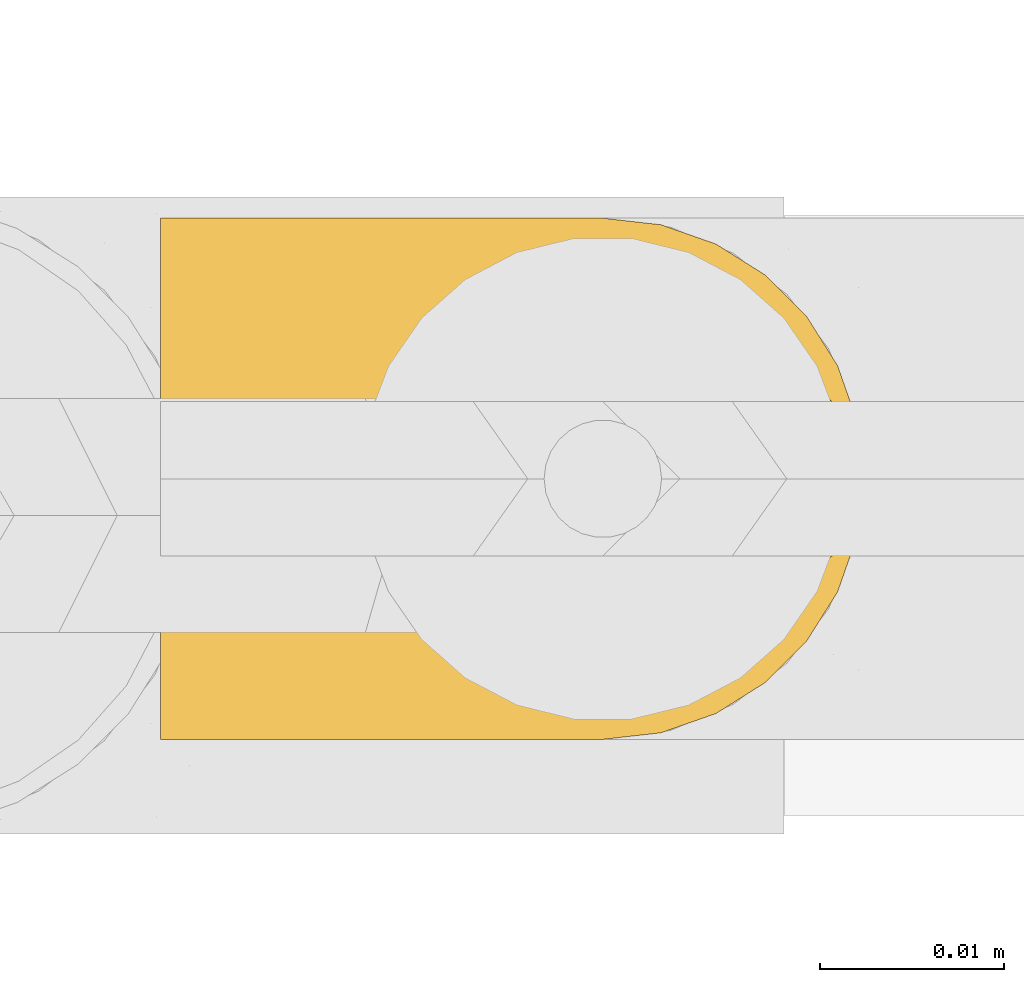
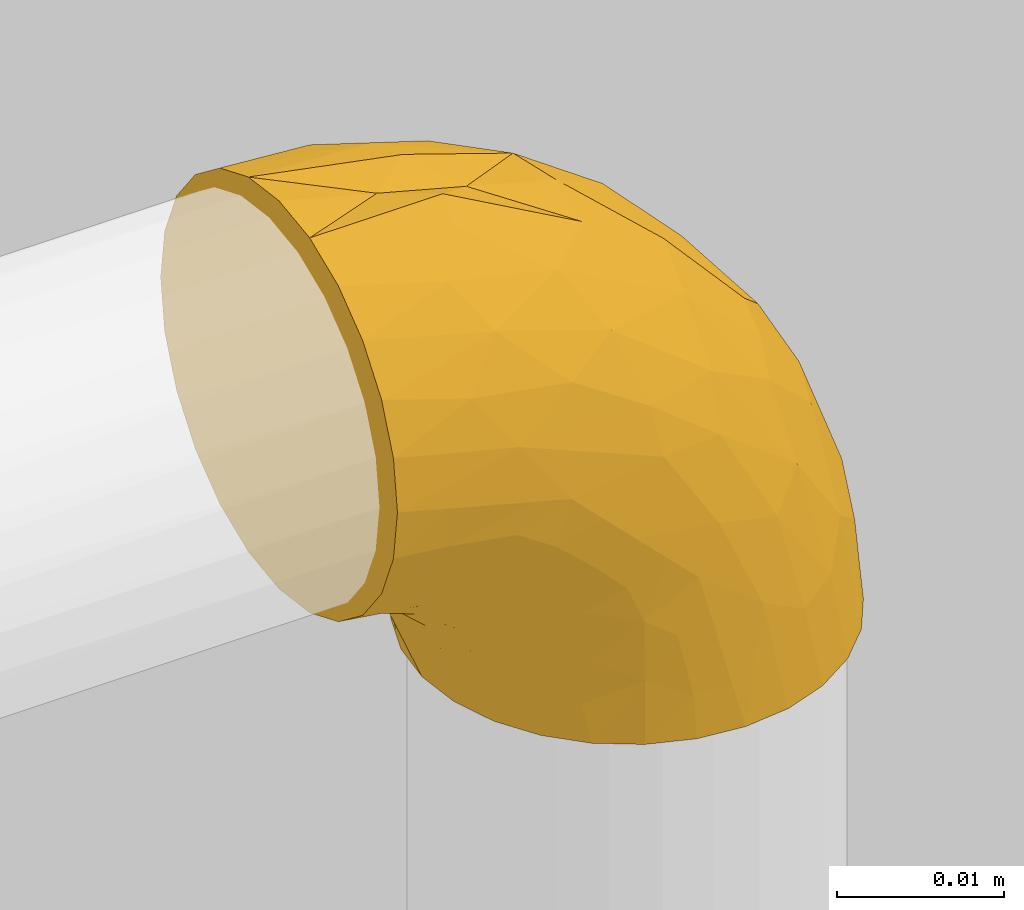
# One storey, part 12 of 32: 1 covering.
"""IFC2X3 building model written with IfcOpenShell, lengths in metres."""

from ifc_helpers import new_model, entity, si_unit, converted_unit, derived_unit, direction, frame, origin, place, context, subcontext, project, spatial, faceted_brep, material, type_object, element, save


model = new_model("IFC2X3")

# Units and contexts
model_context = context("Model", 3, precision=1e-05, world=origin(), true_north=direction((6.123031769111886e-17, 1.0)))
body_context = subcontext(model_context, "Body", "Model", "MODEL_VIEW")
ifc_project = project(units=[si_unit("LENGTHUNIT", "METRE"), si_unit("AREAUNIT", "SQUARE_METRE"), si_unit("VOLUMEUNIT", "CUBIC_METRE"), converted_unit("PLANEANGLEUNIT", "DEGREE", entity("IfcPlaneAngleMeasure", 0.017453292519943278), si_unit("PLANEANGLEUNIT", "RADIAN"), dimensions=[0, 0, 0, 0, 0, 0, 0]), si_unit("MASSUNIT", "GRAM", prefix="KILO"), derived_unit("MASSDENSITYUNIT", [(si_unit("MASSUNIT", "GRAM", prefix="KILO"), 1), (si_unit("LENGTHUNIT", "METRE"), -3)]), derived_unit("IONCONCENTRATIONUNIT", [(si_unit("MASSUNIT", "GRAM", prefix="KILO"), 1), (si_unit("LENGTHUNIT", "METRE"), -3)]), derived_unit("MOMENTOFINERTIAUNIT", [(si_unit("LENGTHUNIT", "METRE"), 4)]), si_unit("TIMEUNIT", "SECOND"), si_unit("FREQUENCYUNIT", "HERTZ"), si_unit("THERMODYNAMICTEMPERATUREUNIT", "DEGREE_CELSIUS"), derived_unit("THERMALTRANSMITTANCEUNIT", [(si_unit("MASSUNIT", "GRAM", prefix="KILO"), 1), (si_unit("THERMODYNAMICTEMPERATUREUNIT", "KELVIN"), -1), (si_unit("TIMEUNIT", "SECOND"), -3)]), derived_unit("THERMALCONDUCTANCEUNIT", [(si_unit("MASSUNIT", "GRAM", prefix="KILO"), 1), (si_unit("THERMODYNAMICTEMPERATUREUNIT", "KELVIN"), -1), (si_unit("TIMEUNIT", "SECOND"), -3), (si_unit("LENGTHUNIT", "METRE"), 1)]), derived_unit("VOLUMETRICFLOWRATEUNIT", [(si_unit("LENGTHUNIT", "METRE", prefix="DECI"), 3), (si_unit("TIMEUNIT", "SECOND"), -1)]), derived_unit("MASSFLOWRATEUNIT", [(si_unit("MASSUNIT", "GRAM", prefix="KILO"), 1), (si_unit("TIMEUNIT", "SECOND"), -1)]), derived_unit("ROTATIONALFREQUENCYUNIT", [(si_unit("TIMEUNIT", "SECOND"), -1)]), si_unit("ELECTRICCURRENTUNIT", "AMPERE"), si_unit("ELECTRICVOLTAGEUNIT", "VOLT"), si_unit("POWERUNIT", "WATT"), si_unit("FORCEUNIT", "NEWTON", prefix="KILO"), si_unit("ILLUMINANCEUNIT", "LUX"), si_unit("LUMINOUSFLUXUNIT", "LUMEN"), si_unit("LUMINOUSINTENSITYUNIT", "CANDELA"), si_unit("ENERGYUNIT", "JOULE"), derived_unit("USERDEFINED", [(si_unit("MASSUNIT", "GRAM", prefix="KILO"), -1), (si_unit("LENGTHUNIT", "METRE"), -2), (si_unit("TIMEUNIT", "SECOND"), 3), (si_unit("LUMINOUSFLUXUNIT", "LUMEN"), 1)]), derived_unit("USERDEFINED", [(si_unit("MASSUNIT", "GRAM", prefix="KILO"), 1), (si_unit("TIMEUNIT", "SECOND"), -3), (si_unit("LENGTHUNIT", "METRE"), 3), (si_unit("ELECTRICCURRENTUNIT", "AMPERE"), -2)]), derived_unit("SOUNDPOWERUNIT", [(si_unit("MASSUNIT", "GRAM", prefix="KILO"), 1), (si_unit("TIMEUNIT", "SECOND"), -3), (si_unit("LENGTHUNIT", "METRE"), 2)]), derived_unit("SOUNDPRESSUREUNIT", [(si_unit("MASSUNIT", "GRAM", prefix="KILO"), 1), (si_unit("LENGTHUNIT", "METRE"), -1), (si_unit("TIMEUNIT", "SECOND"), -2)]), derived_unit("LINEARVELOCITYUNIT", [(si_unit("LENGTHUNIT", "METRE"), 1), (si_unit("TIMEUNIT", "SECOND"), -1)]), si_unit("PRESSUREUNIT", "PASCAL"), derived_unit("USERDEFINED", [(si_unit("MASSUNIT", "GRAM", prefix="KILO"), 1), (si_unit("LENGTHUNIT", "METRE"), -2), (si_unit("TIMEUNIT", "SECOND"), -2)]), derived_unit("LINEARFORCEUNIT", [(si_unit("MASSUNIT", "GRAM", prefix="KILO"), 1), (si_unit("TIMEUNIT", "SECOND"), -2)]), derived_unit("PLANARFORCEUNIT", [(si_unit("MASSUNIT", "GRAM", prefix="KILO"), 1), (si_unit("LENGTHUNIT", "METRE"), -1), (si_unit("TIMEUNIT", "SECOND"), -2)]), derived_unit("SPECIFICHEATCAPACITYUNIT", [(si_unit("THERMODYNAMICTEMPERATUREUNIT", "KELVIN"), -1), (si_unit("LENGTHUNIT", "METRE"), 2), (si_unit("TIMEUNIT", "SECOND"), -2)]), derived_unit("HEATFLUXDENSITYUNIT", [(si_unit("MASSUNIT", "GRAM", prefix="KILO"), 1), (si_unit("TIMEUNIT", "SECOND"), -3)]), derived_unit("HEATINGVALUEUNIT", [(si_unit("LENGTHUNIT", "METRE"), 2), (si_unit("TIMEUNIT", "SECOND"), -2)]), derived_unit("VAPORPERMEABILITYUNIT", [(si_unit("LENGTHUNIT", "METRE"), -1), (si_unit("TIMEUNIT", "SECOND"), 1)]), derived_unit("DYNAMICVISCOSITYUNIT", [(si_unit("MASSUNIT", "GRAM", prefix="KILO"), 1), (si_unit("TIMEUNIT", "SECOND"), -1), (si_unit("LENGTHUNIT", "METRE"), -1)]), derived_unit("THERMALEXPANSIONCOEFFICIENTUNIT", [(si_unit("THERMODYNAMICTEMPERATUREUNIT", "KELVIN"), -1)]), derived_unit("MODULUSOFELASTICITYUNIT", [(si_unit("MASSUNIT", "GRAM", prefix="KILO"), 1), (si_unit("LENGTHUNIT", "METRE"), -1), (si_unit("TIMEUNIT", "SECOND"), -2)]), derived_unit("ISOTHERMALMOISTURECAPACITYUNIT", [(si_unit("MASSUNIT", "GRAM", prefix="KILO"), -1), (si_unit("LENGTHUNIT", "METRE"), 3)]), derived_unit("MOISTUREDIFFUSIVITYUNIT", [(si_unit("TIMEUNIT", "SECOND"), -1), (si_unit("LENGTHUNIT", "METRE"), 2)]), derived_unit("MASSPERLENGTHUNIT", [(si_unit("MASSUNIT", "GRAM", prefix="KILO"), 1), (si_unit("LENGTHUNIT", "METRE"), -1)]), derived_unit("THERMALRESISTANCEUNIT", [(si_unit("MASSUNIT", "GRAM", prefix="KILO"), -1), (si_unit("TIMEUNIT", "SECOND"), 3), (si_unit("THERMODYNAMICTEMPERATUREUNIT", "KELVIN"), 1)]), derived_unit("ACCELERATIONUNIT", [(si_unit("LENGTHUNIT", "METRE"), 1), (si_unit("TIMEUNIT", "SECOND"), -2)]), derived_unit("ANGULARVELOCITYUNIT", [(si_unit("TIMEUNIT", "SECOND"), -1), (si_unit("PLANEANGLEUNIT", "RADIAN"), 1)]), derived_unit("LINEARSTIFFNESSUNIT", [(si_unit("MASSUNIT", "GRAM", prefix="KILO"), 1), (si_unit("TIMEUNIT", "SECOND"), -2)]), derived_unit("WARPINGCONSTANTUNIT", [(si_unit("LENGTHUNIT", "METRE"), 6)]), derived_unit("LINEARMOMENTUNIT", [(si_unit("MASSUNIT", "GRAM", prefix="KILO"), 1), (si_unit("LENGTHUNIT", "METRE"), 1), (si_unit("TIMEUNIT", "SECOND"), -2)]), derived_unit("TORQUEUNIT", [(si_unit("MASSUNIT", "GRAM", prefix="KILO"), 1), (si_unit("LENGTHUNIT", "METRE"), 2), (si_unit("TIMEUNIT", "SECOND"), -2)])], contexts=[model_context])

# Site, building, storey
site_placement = place(None, origin())
site = spatial("IfcSite", under=ifc_project, at=site_placement, Name="Default", CompositionType="ELEMENT")
building_placement = place(site_placement, origin())
building = spatial("IfcBuilding", under=site, at=building_placement, CompositionType="ELEMENT")
storey_placement = place(building_placement, origin())
storey = spatial("IfcBuildingStorey", under=building, at=storey_placement, Name="Niveau 0", CompositionType="ELEMENT", Elevation=-1.949160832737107e-14)

# Covering
ifc_material = material(Name="Matériau du rendu 255-255-255")
covering_type = type_object("IfcCoveringType", Name="Isolation des canalisations:Par défaut", PredefinedType="INSULATION")
covering_placement = place(storey_placement, frame((-14.996616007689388, 1.3612578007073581, 0.10913885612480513)))
element("IfcCovering", 1, at=covering_placement, inside=storey, type_object=covering_type, material=ifc_material, Name="Isolation des canalisations:Par défaut", ObjectType="Isolation des canalisations:Par défaut", PredefinedType="INSULATION", context=body_context, shape_type="Brep", body=[
    faceted_brep([(0.02885664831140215, 0.029638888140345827, -0.03989527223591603), (0.031858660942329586, 0.028587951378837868, -0.03989527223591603), (0.034550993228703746, 0.02689555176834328, -0.03989527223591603), (0.036798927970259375, 0.02464675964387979, -0.03989527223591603), (0.03849001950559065, 0.02195436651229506, -0.03989527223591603), (0.039539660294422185, 0.018953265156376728, -0.03989527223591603), (0.039895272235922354, 0.01579527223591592, -0.03989527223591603), (0.03953888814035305, 0.012633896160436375, -0.03989527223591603), (0.038487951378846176, 0.009631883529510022, -0.03989527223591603), (0.036795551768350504, 0.0069395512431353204, -0.03989527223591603), (0.0345467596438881, 0.004691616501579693, -0.03989527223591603), (0.031854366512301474, 0.0030005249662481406, -0.03989527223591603), (0.028853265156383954, 0.0019508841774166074, -0.03989527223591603), (0.025695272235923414, 0.0015952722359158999, -0.03989527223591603), (0.022533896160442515, 0.0019516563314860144, -0.03989527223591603), (0.019531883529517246, 0.0030025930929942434, -0.03989527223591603), (0.016839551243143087, 0.00469499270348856, -0.03989527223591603), (0.014591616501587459, 0.006943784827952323, -0.03989527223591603), (0.012900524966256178, 0.009636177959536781, -0.03989527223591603), (0.011850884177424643, 0.012637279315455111, -0.03989527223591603), (0.011495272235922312, 0.01579527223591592, -0.03989527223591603), (0.01185165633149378, 0.01895664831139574, -0.03989527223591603), (0.012902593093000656, 0.02195866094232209, -0.03989527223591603), (0.014594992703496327, 0.02465099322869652, -0.03989527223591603), (0.016843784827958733, 0.02689892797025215, -0.03989527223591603), (0.019536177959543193, 0.0285900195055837, -0.03989527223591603), (0.02253727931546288, 0.029639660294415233, -0.03989527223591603), (0.025695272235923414, 0.02999527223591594, -0.03989527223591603), (0.0015952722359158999, 0.012120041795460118, -0.0295114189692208), (0.0015952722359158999, 0.00869527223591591, -0.02809283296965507), (0.0015952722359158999, 0.005754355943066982, -0.025836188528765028), (0.0015952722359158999, 0.0034977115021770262, -0.022895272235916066), (0.0015952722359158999, 0.002079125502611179, -0.01947050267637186), (0.0015952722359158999, 0.0015952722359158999, -0.015795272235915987), (0.0015952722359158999, 0.002079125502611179, -0.012120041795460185), (0.0015952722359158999, 0.0034977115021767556, -0.008695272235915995), (0.0015952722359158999, 0.005754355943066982, -0.005754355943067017), (0.0015952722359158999, 0.00869527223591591, -0.0034977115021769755), (0.0015952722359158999, 0.012120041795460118, -0.002079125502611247), (0.0015952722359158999, 0.01579527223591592, -0.0015952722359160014), (0.0015952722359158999, 0.019470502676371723, -0.002079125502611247), (0.0015952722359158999, 0.02289527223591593, -0.0034977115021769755), (0.0015952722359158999, 0.025836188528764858, -0.005754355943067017), (0.0015952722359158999, 0.028092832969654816, -0.008695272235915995), (0.0015952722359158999, 0.029511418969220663, -0.012120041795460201), (0.0015952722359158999, 0.02999527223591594, -0.015795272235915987), (0.0015952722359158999, 0.029511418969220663, -0.019470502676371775), (0.0015952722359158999, 0.028092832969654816, -0.022895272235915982), (0.0015952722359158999, 0.025836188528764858, -0.02583618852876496), (0.0015952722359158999, 0.02289527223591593, -0.028092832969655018), (0.0015952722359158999, 0.019470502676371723, -0.029511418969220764), (0.0015952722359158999, 0.01579527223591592, -0.02999527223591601), (0.027048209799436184, 0.029733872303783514, -0.031466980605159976), (0.01155834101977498, 0.018166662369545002, -0.00312038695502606), (0.008375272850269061, 0.01579527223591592, -0.0034119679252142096), (0.014560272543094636, 0.01579527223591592, -0.005069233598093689), (0.014682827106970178, 0.028252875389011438, -0.011886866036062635), (0.010357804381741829, 0.02654090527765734, -0.007682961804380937), (0.018634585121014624, 0.026180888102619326, -0.010723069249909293), (0.02405349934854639, 0.02966220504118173, -0.024625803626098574), (0.022466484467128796, 0.02999527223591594, -0.027845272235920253), (0.03807237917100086, 0.02008831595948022, -0.030629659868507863), (0.03458658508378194, 0.022434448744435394, -0.023927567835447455), (0.03564178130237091, 0.01950717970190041, -0.023459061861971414), (0.020408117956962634, 0.02934471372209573, -0.01868835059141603), (0.01805587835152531, 0.02999527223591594, -0.023434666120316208), (0.016364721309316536, 0.023549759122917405, -0.007069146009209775), (0.010797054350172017, 0.02080360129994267, -0.0036578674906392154), (0.020172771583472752, 0.019923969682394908, -0.007105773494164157), (0.0074916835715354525, 0.028644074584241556, -0.01033204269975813), (0.010237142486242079, 0.029677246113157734, -0.014222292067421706), (0.025582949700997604, 0.022802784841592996, -0.012450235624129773), (0.013645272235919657, 0.02999527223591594, -0.019024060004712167), (0.010976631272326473, 0.02999527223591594, -0.01830899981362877), (0.008307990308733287, 0.02999527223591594, -0.017593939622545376), (0.007620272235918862, 0.02999527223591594, -0.017409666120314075), (0.004951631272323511, 0.02999527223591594, -0.01669460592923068), (0.025175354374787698, 0.028908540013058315, -0.022088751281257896), (0.02155615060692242, 0.02801894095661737, -0.01575171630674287), (0.026742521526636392, 0.027726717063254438, -0.02043204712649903), (0.03307723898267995, 0.02742768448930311, -0.0329260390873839), (0.034991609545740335, 0.02526771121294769, -0.030551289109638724), (0.037297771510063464, 0.02297391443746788, -0.03305521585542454), (0.03642131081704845, 0.01579527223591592, -0.026930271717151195), (0.030395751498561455, 0.028931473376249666, -0.03354339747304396), (0.02873854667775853, 0.02856587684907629, -0.02640905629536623), (0.008485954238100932, 0.02404225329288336, -0.004907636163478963), (0.024795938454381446, 0.02999527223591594, -0.03653891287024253), (0.024080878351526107, 0.02999527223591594, -0.03387027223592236), (0.023896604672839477, 0.02999527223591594, -0.033182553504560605), (0.02318154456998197, 0.02999527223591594, -0.030513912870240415), (0.031219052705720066, 0.02659257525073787, -0.024636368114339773), (0.030558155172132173, 0.024430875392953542, -0.019588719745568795), (0.03807857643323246, 0.01579527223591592, -0.03311527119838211), (0.025554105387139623, 0.026199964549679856, -0.016105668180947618), (0.027754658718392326, 0.01579527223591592, -0.013735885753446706), (0.03476404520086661, 0.01579527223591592, -0.02074527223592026), (0.03164333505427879, 0.019534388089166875, -0.01696345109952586), (0.02074527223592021, 0.01579527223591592, -0.00672649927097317), (0.02639706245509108, 0.01990856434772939, -0.011513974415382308), (0.03130855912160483, 0.02209913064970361, -0.01814369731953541), (0.015850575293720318, 0.02999527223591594, -0.02122936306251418), (0.02026118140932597, 0.02999527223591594, -0.02563996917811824), (0.019055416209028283, 0.029377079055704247, -0.030232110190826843), (0.01941299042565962, 0.0288294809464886, -0.03504783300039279), (0.016324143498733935, 0.02753992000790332, -0.033347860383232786), (0.01008373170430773, 0.029670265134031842, -0.0206006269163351), (0.005334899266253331, 0.029488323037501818, -0.01990237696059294), (0.006124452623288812, 0.025730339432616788, -0.026696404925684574), (0.008851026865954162, 0.02535629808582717, -0.028391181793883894), (0.006997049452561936, 0.022650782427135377, -0.02955694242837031), (0.01197247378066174, 0.028333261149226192, -0.02588636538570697), (0.012855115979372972, 0.029588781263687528, -0.022493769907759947), (0.015604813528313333, 0.02950996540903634, -0.025039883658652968), (0.003990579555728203, 0.021863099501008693, -0.028891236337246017), (0.006747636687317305, 0.02905725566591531, -0.0215816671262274), (0.00477823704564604, 0.02758119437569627, -0.024031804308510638), (0.007441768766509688, 0.019266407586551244, -0.03137801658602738), (0.008595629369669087, 0.01579527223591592, -0.03289491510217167), (0.005095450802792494, 0.01579527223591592, -0.03144509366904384), (0.009650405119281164, 0.01983888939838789, -0.033178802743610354), (0.022275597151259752, 0.02964120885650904, -0.036552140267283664), (0.010954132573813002, 0.018973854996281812, -0.03568980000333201), (0.011348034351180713, 0.021894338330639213, -0.03423455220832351), (0.012210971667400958, 0.021143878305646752, -0.03722732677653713), (0.013823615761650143, 0.02452710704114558, -0.03578073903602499), (0.012045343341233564, 0.024465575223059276, -0.03241002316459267), (0.009717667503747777, 0.02276166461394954, -0.0314376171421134), (0.016254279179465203, 0.026659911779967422, -0.036925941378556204), (0.02184288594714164, 0.029708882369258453, -0.03340468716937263), (0.004526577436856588, 0.018798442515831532, -0.030103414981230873), (0.010045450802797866, 0.01579527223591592, -0.03639509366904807), (0.015405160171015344, 0.0284623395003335, -0.028851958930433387), (0.01410895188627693, 0.026609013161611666, -0.031813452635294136), (0.008820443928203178, 0.02746848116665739, -0.0256033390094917), (0.008460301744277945, 0.028613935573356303, -0.023265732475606), (0.017780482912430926, 0.029539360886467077, -0.027264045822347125), (0.011880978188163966, 0.026220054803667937, -0.029734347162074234), (0.009715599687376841, 0.008832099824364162, -0.031438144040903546), (0.007441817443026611, 0.012323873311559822, -0.03137796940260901), (0.009649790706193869, 0.011756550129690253, -0.033180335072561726), (0.024795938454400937, 0.0015952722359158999, -0.03653891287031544), (0.004806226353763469, 0.011626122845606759, -0.029871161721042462), (0.010976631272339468, 0.0015952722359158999, -0.018308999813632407), (0.010083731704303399, 0.001920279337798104, -0.02060062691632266), (0.013645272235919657, 0.0015952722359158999, -0.019024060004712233), (0.004199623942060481, 0.009216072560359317, -0.028677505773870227), (0.005334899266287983, 0.002102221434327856, -0.01990237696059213), (0.004951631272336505, 0.0015952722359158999, -0.016694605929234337), (0.011877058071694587, 0.005375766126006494, -0.02973849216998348), (0.01539894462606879, 0.0031321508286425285, -0.02885664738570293), (0.011966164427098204, 0.0032613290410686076, -0.025891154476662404), (0.008460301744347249, 0.002976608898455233, -0.023265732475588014), (0.006747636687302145, 0.0025332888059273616, -0.02158166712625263), (0.00477823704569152, 0.004009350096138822, -0.02403180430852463), (0.006123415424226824, 0.005860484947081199, -0.02669633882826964), (0.008848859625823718, 0.006235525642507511, -0.028391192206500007), (0.006993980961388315, 0.008940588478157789, -0.02955585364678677), (0.012209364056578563, 0.010451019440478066, -0.03722818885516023), (0.01095411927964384, 0.012619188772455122, -0.03569117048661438), (0.019407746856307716, 0.0027633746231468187, -0.03504891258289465), (0.022272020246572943, 0.0019500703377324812, -0.03655023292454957), (0.013820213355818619, 0.007068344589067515, -0.035782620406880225), (0.024080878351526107, 0.0015952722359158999, -0.03387027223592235), (0.023896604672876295, 0.0015952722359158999, -0.0331825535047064), (0.01905004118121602, 0.0022143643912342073, -0.030228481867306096), (0.016318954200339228, 0.004054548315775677, -0.033350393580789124), (0.016249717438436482, 0.004934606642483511, -0.03692719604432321), (0.011346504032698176, 0.009701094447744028, -0.034236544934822), (0.01204243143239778, 0.007130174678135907, -0.032412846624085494), (0.008816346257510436, 0.004122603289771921, -0.025602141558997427), (0.01285993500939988, 0.002001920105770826, -0.022497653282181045), (0.023181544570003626, 0.0015952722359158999, -0.03051391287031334), (0.022466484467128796, 0.0015952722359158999, -0.027845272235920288), (0.021177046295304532, 0.0019021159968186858, -0.0318660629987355), (0.014104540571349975, 0.004986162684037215, -0.0318166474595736), (0.017767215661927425, 0.002056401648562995, -0.027279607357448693), (0.01805587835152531, 0.0015952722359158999, -0.02343466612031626), (0.015607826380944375, 0.0020828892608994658, -0.025054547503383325), (0.020261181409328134, 0.0015952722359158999, -0.025639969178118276), (0.015850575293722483, 0.0015952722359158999, -0.02122936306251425), (0.008307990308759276, 0.0015952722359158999, -0.017593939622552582), (0.007620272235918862, 0.0015952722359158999, -0.017409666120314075), (0.010356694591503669, 0.0050495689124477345, -0.00768274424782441), (0.014679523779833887, 0.0033374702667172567, -0.01188572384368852), (0.018634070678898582, 0.005409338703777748, -0.010723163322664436), (0.03307315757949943, 0.004160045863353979, -0.03292620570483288), (0.010237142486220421, 0.0019132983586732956, -0.014222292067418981), (0.025592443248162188, 0.008788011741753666, -0.012458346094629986), (0.03164297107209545, 0.012054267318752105, -0.016963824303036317), (0.026466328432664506, 0.012737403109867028, -0.01120882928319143), (0.030556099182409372, 0.007155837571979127, -0.019590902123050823), (0.031215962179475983, 0.004994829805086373, -0.024638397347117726), (0.03498806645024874, 0.00631902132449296, -0.030551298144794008), (0.007489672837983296, 0.0029463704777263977, -0.010331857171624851), (0.010798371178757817, 0.010787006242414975, -0.0036581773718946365), (0.016368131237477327, 0.008041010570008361, -0.007070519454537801), (0.02017317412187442, 0.011666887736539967, -0.007105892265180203), (0.028735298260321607, 0.0030229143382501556, -0.026410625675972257), (0.02498476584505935, 0.00344376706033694, -0.01938921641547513), (0.024053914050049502, 0.0019283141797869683, -0.024626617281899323), (0.03807109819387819, 0.01149853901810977, -0.03062937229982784), (0.027046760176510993, 0.0018563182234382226, -0.03146839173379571), (0.008487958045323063, 0.007548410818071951, -0.004907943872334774), (0.03729500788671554, 0.008612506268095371, -0.03305363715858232), (0.03458457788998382, 0.009151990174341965, -0.02392840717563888), (0.020410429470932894, 0.002246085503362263, -0.018689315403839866), (0.020003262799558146, 0.003193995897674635, -0.015393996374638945), (0.011558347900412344, 0.013423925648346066, -0.0031203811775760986), (0.025551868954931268, 0.005387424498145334, -0.01610823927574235), (0.030392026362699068, 0.002657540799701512, -0.03354382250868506), (0.03582275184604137, 0.012727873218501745, -0.023469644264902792), (0.03130512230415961, 0.009488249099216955, -0.018141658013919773)], [[[0, 1, 2, 3, 4, 5, 6, 7, 8, 9, 10, 11, 12, 13, 14, 15, 16, 17, 18, 19, 20, 21, 22, 23, 24, 25, 26, 27]], [[28, 29, 30, 31, 32, 33, 34, 35, 36, 37, 38, 39, 40, 41, 42, 43, 44, 45, 46, 47, 48, 49, 50, 51]], [[27, 52, 0]], [[53, 54, 55]], [[56, 57, 58]], [[59, 52, 60]], [[61, 62, 63]], [[64, 59, 65]], [[66, 67, 68]], [[57, 56, 69]], [[70, 45, 44]], [[43, 42, 57]], [[66, 68, 71]], [[70, 72, 73, 74, 75, 76, 45]], [[44, 43, 69]], [[77, 78, 79]], [[80, 81, 2]], [[41, 40, 67]], [[82, 62, 61]], [[2, 81, 3]], [[63, 83, 61]], [[61, 5, 4]], [[84, 52, 85]], [[40, 39, 54]], [[58, 78, 56]], [[66, 86, 67]], [[86, 42, 41]], [[52, 27, 87, 88, 89, 90, 60]], [[91, 92, 81]], [[70, 64, 72]], [[80, 2, 1]], [[93, 5, 61]], [[1, 0, 84]], [[93, 6, 5]], [[81, 80, 91]], [[4, 82, 61]], [[54, 53, 40]], [[82, 4, 3]], [[68, 67, 53]], [[86, 57, 42]], [[58, 94, 78]], [[69, 70, 44]], [[64, 70, 56]], [[78, 64, 56]], [[85, 52, 59]], [[3, 81, 82]], [[62, 82, 81]], [[84, 80, 1]], [[91, 80, 85]], [[79, 91, 85]], [[91, 94, 92]], [[95, 96, 97]], [[94, 58, 71]], [[98, 95, 99]], [[99, 95, 97]], [[92, 62, 81]], [[92, 100, 62]], [[68, 99, 71]], [[52, 84, 0]], [[80, 84, 85]], [[67, 86, 41]], [[57, 86, 66]], [[57, 66, 58]], [[71, 58, 66]], [[64, 65, 101, 72]], [[77, 79, 85]], [[59, 60, 102, 65]], [[94, 71, 92]], [[71, 99, 100]], [[68, 53, 55]], [[98, 68, 55]], [[40, 53, 67]], [[71, 100, 92]], [[63, 100, 97]], [[57, 69, 43]], [[70, 69, 56]], [[100, 63, 62]], [[83, 93, 61]], [[79, 78, 94]], [[91, 79, 94]], [[85, 59, 77]], [[59, 64, 77]], [[78, 77, 64]], [[99, 68, 98]], [[100, 99, 97]], [[97, 96, 63]], [[83, 63, 96]], [[103, 104, 105]], [[72, 106, 73]], [[47, 46, 107]], [[107, 46, 76]], [[108, 109, 110]], [[111, 112, 113]], [[108, 110, 114]], [[47, 115, 116]], [[117, 118, 119]], [[108, 49, 48]], [[118, 117, 120]], [[25, 121, 26]], [[49, 114, 50]], [[122, 123, 124]], [[124, 125, 22]], [[126, 123, 127]], [[128, 104, 24]], [[129, 103, 60]], [[24, 104, 25]], [[27, 26, 87]], [[123, 120, 127]], [[130, 117, 119]], [[107, 76, 75, 74, 73]], [[131, 118, 122, 20]], [[105, 132, 103]], [[21, 124, 22]], [[23, 22, 125]], [[121, 87, 26]], [[126, 133, 125]], [[130, 110, 117]], [[123, 122, 120]], [[128, 24, 23]], [[50, 130, 51]], [[128, 125, 105]], [[129, 121, 104]], [[116, 108, 48]], [[134, 135, 111]], [[135, 112, 111]], [[127, 120, 117]], [[21, 20, 122]], [[125, 124, 123]], [[21, 122, 124]], [[105, 133, 132]], [[136, 103, 132]], [[111, 132, 137]], [[113, 136, 132]], [[111, 137, 109]], [[112, 106, 72]], [[118, 120, 122]], [[127, 117, 110]], [[109, 127, 110]], [[126, 127, 137]], [[133, 126, 137]], [[125, 123, 126]], [[132, 133, 137]], [[125, 133, 105]], [[125, 128, 23]], [[104, 128, 105]], [[113, 101, 65]], [[101, 113, 112]], [[102, 136, 65]], [[132, 111, 113]], [[103, 102, 60]], [[104, 121, 25]], [[121, 89, 88, 87]], [[129, 60, 90, 89]], [[121, 129, 89]], [[115, 107, 106]], [[106, 112, 135]], [[73, 106, 107]], [[106, 135, 115]], [[116, 115, 135]], [[47, 107, 115]], [[116, 135, 134]], [[47, 116, 48]], [[51, 130, 119]], [[130, 50, 114]], [[112, 72, 101]], [[108, 114, 49]], [[130, 114, 110]], [[65, 136, 113]], [[102, 103, 136]], [[46, 45, 76]], [[109, 108, 134]], [[127, 109, 137]], [[109, 134, 111]], [[116, 134, 108]], [[103, 129, 104]], [[138, 139, 140]], [[14, 13, 141]], [[119, 142, 51]], [[139, 142, 119]], [[143, 144, 145]], [[142, 146, 28]], [[147, 148, 32]], [[149, 150, 151]], [[152, 153, 154]], [[118, 139, 119]], [[155, 29, 146]], [[138, 156, 157]], [[158, 159, 19]], [[157, 139, 138]], [[18, 158, 19]], [[160, 15, 161]], [[17, 162, 18]], [[161, 141, 163, 164]], [[160, 165, 166]], [[147, 32, 31]], [[17, 16, 167]], [[168, 158, 162]], [[160, 166, 167]], [[149, 138, 169]], [[170, 156, 151]], [[151, 171, 152]], [[172, 173, 174, 164]], [[14, 161, 15]], [[155, 30, 29]], [[160, 16, 15]], [[19, 159, 20]], [[118, 131, 20, 159]], [[169, 175, 149]], [[167, 162, 17]], [[174, 165, 160]], [[156, 155, 157]], [[155, 170, 154]], [[150, 166, 165]], [[118, 159, 140]], [[142, 139, 157]], [[162, 158, 18]], [[159, 158, 168]], [[159, 168, 140]], [[176, 177, 178]], [[150, 149, 175]], [[176, 178, 150]], [[171, 145, 144]], [[165, 179, 176]], [[170, 151, 152]], [[140, 168, 138]], [[118, 140, 139]], [[169, 138, 168]], [[156, 138, 149]], [[168, 162, 169]], [[175, 162, 166]], [[162, 175, 169]], [[150, 175, 166]], [[160, 167, 16]], [[162, 167, 166]], [[178, 171, 151]], [[178, 180, 171]], [[151, 150, 178]], [[165, 173, 179]], [[176, 150, 165]], [[141, 161, 14]], [[174, 173, 165]], [[174, 161, 164]], [[152, 144, 153]], [[147, 143, 181, 182, 148]], [[147, 153, 144]], [[147, 144, 143]], [[171, 144, 152]], [[147, 31, 153]], [[154, 31, 30]], [[31, 154, 153]], [[155, 154, 30]], [[146, 142, 157]], [[142, 28, 51]], [[155, 146, 157]], [[28, 146, 29]], [[180, 178, 177]], [[180, 145, 171]], [[177, 176, 179]], [[148, 33, 32]], [[151, 156, 149]], [[154, 170, 152]], [[156, 170, 155]], [[161, 174, 160]], [[183, 184, 185]], [[10, 186, 11]], [[187, 33, 148, 182, 181, 143, 145]], [[188, 189, 190]], [[191, 192, 193]], [[34, 194, 35]], [[195, 38, 37]], [[195, 196, 197]], [[194, 183, 35]], [[54, 39, 38]], [[183, 36, 35]], [[98, 55, 197]], [[198, 199, 200]], [[8, 7, 201]], [[200, 173, 202]], [[203, 195, 37]], [[13, 12, 202]], [[36, 203, 37]], [[9, 193, 10]], [[204, 205, 193]], [[187, 206, 207]], [[193, 186, 10]], [[7, 6, 93]], [[55, 208, 197]], [[186, 192, 198]], [[201, 204, 8]], [[192, 199, 198]], [[192, 191, 209]], [[202, 173, 172, 164, 163, 141, 13]], [[7, 93, 201]], [[210, 202, 12]], [[204, 9, 8]], [[33, 187, 34]], [[11, 210, 12]], [[83, 96, 211]], [[207, 206, 199]], [[38, 195, 208]], [[207, 185, 184]], [[203, 183, 196]], [[206, 187, 145]], [[194, 187, 184]], [[206, 177, 200]], [[206, 200, 199]], [[205, 204, 201]], [[193, 9, 204]], [[192, 186, 193]], [[210, 186, 198]], [[191, 193, 205]], [[199, 192, 209]], [[196, 185, 188]], [[190, 98, 197]], [[197, 196, 188]], [[95, 189, 96]], [[211, 205, 201]], [[190, 189, 95]], [[212, 188, 191]], [[186, 210, 11]], [[202, 210, 198]], [[183, 203, 36]], [[195, 203, 196]], [[188, 185, 209]], [[196, 183, 185]], [[198, 200, 202]], [[212, 191, 205]], [[206, 145, 180, 177]], [[200, 177, 179, 173]], [[188, 209, 191]], [[38, 208, 54]], [[54, 208, 55]], [[197, 208, 195]], [[205, 189, 212]], [[188, 212, 189]], [[187, 194, 34]], [[183, 194, 184]], [[189, 211, 96]], [[201, 93, 83]], [[209, 185, 207]], [[207, 199, 209]], [[187, 207, 184]], [[98, 190, 95]], [[188, 190, 197]], [[205, 211, 189]], [[83, 211, 201]]]),
])

save(model, "model.ifc")
